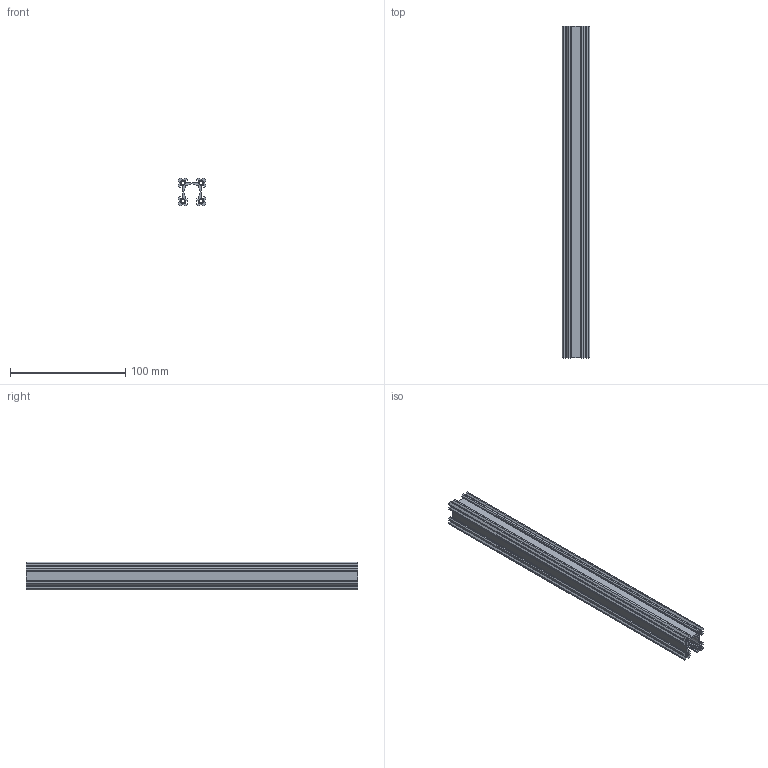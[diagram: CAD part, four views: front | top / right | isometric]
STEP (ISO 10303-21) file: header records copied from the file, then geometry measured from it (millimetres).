
FILE_DESCRIPTION (( 'STEP AP203' ), '1' );
FILE_NAME ('1118-0024-0288.STEP', '2017-09-21T19:02:49', ( '' ), ( '' ), 'SwSTEP 2.0', 'SolidWorks 2016', '' );
FILE_SCHEMA (( 'CONFIG_CONTROL_DESIGN' ));
Length unit declared in the file: millimetre
Products named in the file (1): 1118-0024-0288
Bounding box: 24 x 288 x 24 mm (x, y, z)
Volume: 53680.3 mm3; surface area: 67984.4 mm2
Topology: 1 solids, 1 shells, 801 faces, 2389 edges, 1590 vertices
Faces by surface type: cylinder 676, plane 89, cone 20, bspline 16
Entity records: 49920 total; most frequent: CARTESIAN_POINT 32205, ORIENTED_EDGE 4778, DIRECTION 2745, EDGE_CURVE 2389, VERTEX_POINT 1590, VECTOR 925, LINE 925, AXIS2_PLACEMENT_3D 910
